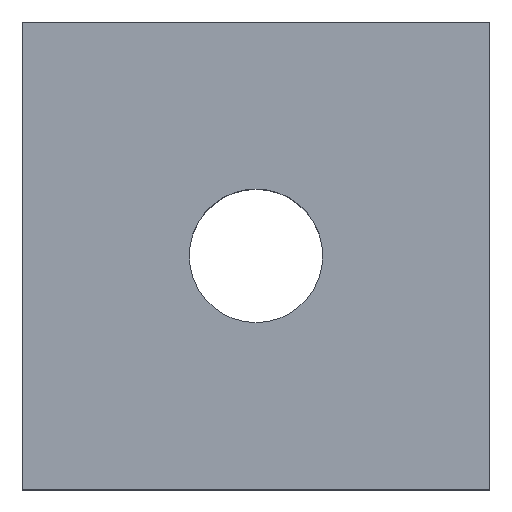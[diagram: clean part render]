
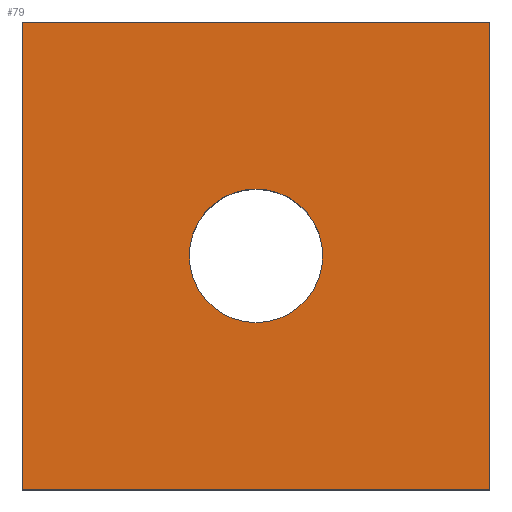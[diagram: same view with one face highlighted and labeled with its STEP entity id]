
A CAD part, top view. The second image highlights one B-rep face of the part: STEP entity #79.
In plain terms, the highlighted free-form (B-spline) face has degree [1, 1] with [2, 2] control points.
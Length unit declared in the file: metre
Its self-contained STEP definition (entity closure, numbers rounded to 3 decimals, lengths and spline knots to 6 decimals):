
#79 = ADVANCED_FACE( '', ( #93, #94 ), #95, .T. );
#93 = FACE_BOUND( '', #139, .T. );
#94 = FACE_OUTER_BOUND( '', #140, .T. );
#95 = B_SPLINE_SURFACE_WITH_KNOTS( '', 1, 1, ( ( #141, #142 ), ( #143, #144 ) ), .UNSPECIFIED., .F., .F., .F., ( 2, 2 ), ( 2, 2 ), ( 0., 1. ), ( 0., 1. ), .UNSPECIFIED. );
#139 = EDGE_LOOP( '', ( #170 ) );
#140 = EDGE_LOOP( '', ( #171, #172, #173, #174 ) );
#141 = CARTESIAN_POINT( '', ( 11.287023, 7.092256, 0.280897 ) );
#142 = CARTESIAN_POINT( '', ( 11.287023, 7.107656, 0.280897 ) );
#143 = CARTESIAN_POINT( '', ( 11.302423, 7.092256, 0.280897 ) );
#144 = CARTESIAN_POINT( '', ( 11.302423, 7.107656, 0.280897 ) );
#170 = ORIENTED_EDGE( '', *, *, #187, .F. );
#171 = ORIENTED_EDGE( '', *, *, #194, .T. );
#172 = ORIENTED_EDGE( '', *, *, #195, .T. );
#173 = ORIENTED_EDGE( '', *, *, #183, .T. );
#174 = ORIENTED_EDGE( '', *, *, #189, .T. );
#183 = EDGE_CURVE( '', #197, #198, #199, .T. );
#187 = EDGE_CURVE( '', #205, #205, #206, .T. );
#189 = EDGE_CURVE( '', #198, #209, #210, .T. );
#194 = EDGE_CURVE( '', #209, #217, #218, .T. );
#195 = EDGE_CURVE( '', #217, #197, #219, .T. );
#197 = VERTEX_POINT( '', #221 );
#198 = VERTEX_POINT( '', #222 );
#199 = LINE( '', #223, #224 );
#205 = VERTEX_POINT( '', #233 );
#206 = CIRCLE( '', #234, 0.002 );
#209 = VERTEX_POINT( '', #237 );
#210 = LINE( '', #238, #239 );
#217 = VERTEX_POINT( '', #250 );
#218 = LINE( '', #251, #252 );
#219 = LINE( '', #253, #254 );
#221 = CARTESIAN_POINT( '', ( 11.301723, 7.092956, 0.280897 ) );
#222 = CARTESIAN_POINT( '', ( 11.301723, 7.106956, 0.280897 ) );
#223 = CARTESIAN_POINT( '', ( 11.301723, 7.099956, 0.280897 ) );
#224 = VECTOR( '', #257, 1. );
#233 = CARTESIAN_POINT( '', ( 11.296723, 7.099956, 0.280897 ) );
#234 = AXIS2_PLACEMENT_3D( '', #261, #262, #263 );
#237 = CARTESIAN_POINT( '', ( 11.287723, 7.106956, 0.280897 ) );
#238 = CARTESIAN_POINT( '', ( 11.294723, 7.106956, 0.280897 ) );
#239 = VECTOR( '', #267, 1. );
#250 = CARTESIAN_POINT( '', ( 11.287723, 7.092956, 0.280897 ) );
#251 = CARTESIAN_POINT( '', ( 11.287723, 7.099956, 0.280897 ) );
#252 = VECTOR( '', #272, 1. );
#253 = CARTESIAN_POINT( '', ( 11.294723, 7.092956, 0.280897 ) );
#254 = VECTOR( '', #273, 1. );
#257 = DIRECTION( '', ( 0., 1., 0. ) );
#261 = CARTESIAN_POINT( '', ( 11.294723, 7.099956, 0.280897 ) );
#262 = DIRECTION( '', ( 0., 0., 1. ) );
#263 = DIRECTION( '', ( 0., -1., 0. ) );
#267 = DIRECTION( '', ( -1., 0., 0. ) );
#272 = DIRECTION( '', ( 0., -1., 0. ) );
#273 = DIRECTION( '', ( 1., 0., 0. ) );
